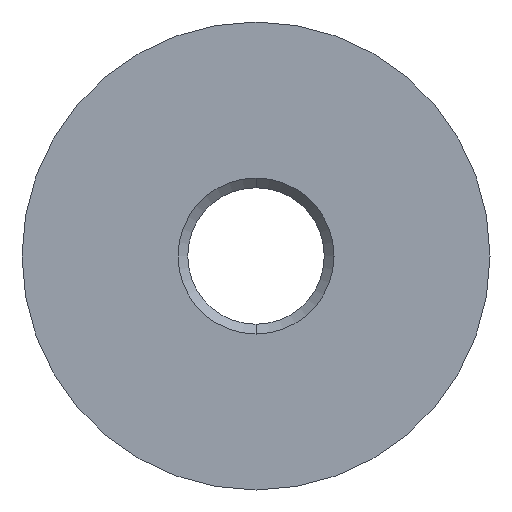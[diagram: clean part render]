
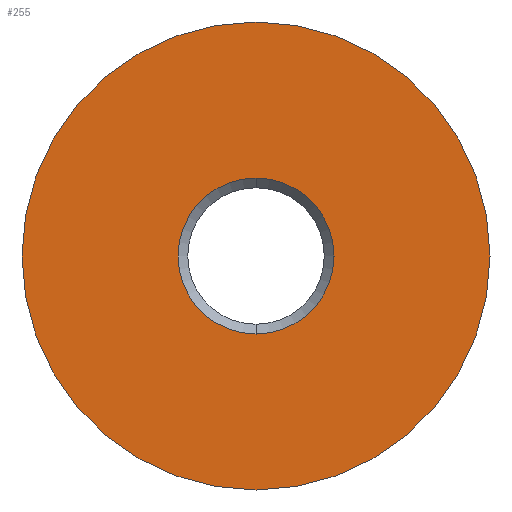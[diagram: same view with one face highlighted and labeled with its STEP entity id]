
A CAD part, front view. The second image highlights one B-rep face of the part: STEP entity #255.
In plain terms, the highlighted planar face has unit normal (0, -1, 0).
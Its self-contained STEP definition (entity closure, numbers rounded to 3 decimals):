
#3 = CARTESIAN_POINT ( 'NONE',  ( 0., -5., 0. ) ) ;
#13 = DIRECTION ( 'NONE',  ( 0., -1., 0. ) ) ;
#21 = AXIS2_PLACEMENT_3D ( 'NONE', #82, #160, #168 ) ;
#49 = CIRCLE ( 'NONE', #321, 6. ) ;
#53 = EDGE_LOOP ( 'NONE', ( #148, #92 ) ) ;
#82 = CARTESIAN_POINT ( 'NONE',  ( 0., -5., 0. ) ) ;
#84 = AXIS2_PLACEMENT_3D ( 'NONE', #323, #132, #383 ) ;
#92 = ORIENTED_EDGE ( 'NONE', *, *, #303, .F. ) ;
#97 = CARTESIAN_POINT ( 'NONE',  ( 0., -5., -6. ) ) ;
#101 = DIRECTION ( 'NONE',  ( 0., 1., 0. ) ) ;
#108 = VERTEX_POINT ( 'NONE', #350 ) ;
#132 = DIRECTION ( 'NONE',  ( 0., -1., 0. ) ) ;
#137 = DIRECTION ( 'NONE',  ( 0., -1., 0. ) ) ;
#138 = PLANE ( 'NONE',  #199 ) ;
#148 = ORIENTED_EDGE ( 'NONE', *, *, #394, .F. ) ;
#156 = DIRECTION ( 'NONE',  ( 0., 0., 1. ) ) ;
#160 = DIRECTION ( 'NONE',  ( 0., -1., 0. ) ) ;
#167 = EDGE_LOOP ( 'NONE', ( #243, #244 ) ) ;
#168 = DIRECTION ( 'NONE',  ( 0., 0., -1. ) ) ;
#196 = EDGE_CURVE ( 'NONE', #276, #362, #49, .T. ) ;
#199 = AXIS2_PLACEMENT_3D ( 'NONE', #280, #101, #156 ) ;
#219 = FACE_BOUND ( 'NONE', #53, .T. ) ;
#220 = AXIS2_PLACEMENT_3D ( 'NONE', #245, #137, #224 ) ;
#224 = DIRECTION ( 'NONE',  ( 0., 0., -1. ) ) ;
#230 = CIRCLE ( 'NONE', #84, 2. ) ;
#243 = ORIENTED_EDGE ( 'NONE', *, *, #359, .T. ) ;
#244 = ORIENTED_EDGE ( 'NONE', *, *, #196, .T. ) ;
#245 = CARTESIAN_POINT ( 'NONE',  ( 0., -5., 0. ) ) ;
#255 = ADVANCED_FACE ( 'NONE', ( #219, #363 ), #138, .F. ) ;
#276 = VERTEX_POINT ( 'NONE', #335 ) ;
#280 = CARTESIAN_POINT ( 'NONE',  ( -2., -5., 0. ) ) ;
#294 = CIRCLE ( 'NONE', #220, 2. ) ;
#296 = VERTEX_POINT ( 'NONE', #343 ) ;
#303 = EDGE_CURVE ( 'NONE', #296, #108, #230, .T. ) ;
#312 = CIRCLE ( 'NONE', #21, 6. ) ;
#321 = AXIS2_PLACEMENT_3D ( 'NONE', #3, #13, #345 ) ;
#323 = CARTESIAN_POINT ( 'NONE',  ( 0., -5., 0. ) ) ;
#335 = CARTESIAN_POINT ( 'NONE',  ( 0., -5., 6. ) ) ;
#343 = CARTESIAN_POINT ( 'NONE',  ( 0., -5., 2. ) ) ;
#345 = DIRECTION ( 'NONE',  ( 0., 0., -1. ) ) ;
#350 = CARTESIAN_POINT ( 'NONE',  ( 0., -5., -2. ) ) ;
#359 = EDGE_CURVE ( 'NONE', #362, #276, #312, .T. ) ;
#362 = VERTEX_POINT ( 'NONE', #97 ) ;
#363 = FACE_OUTER_BOUND ( 'NONE', #167, .T. ) ;
#383 = DIRECTION ( 'NONE',  ( 0., 0., -1. ) ) ;
#394 = EDGE_CURVE ( 'NONE', #108, #296, #294, .T. ) ;
